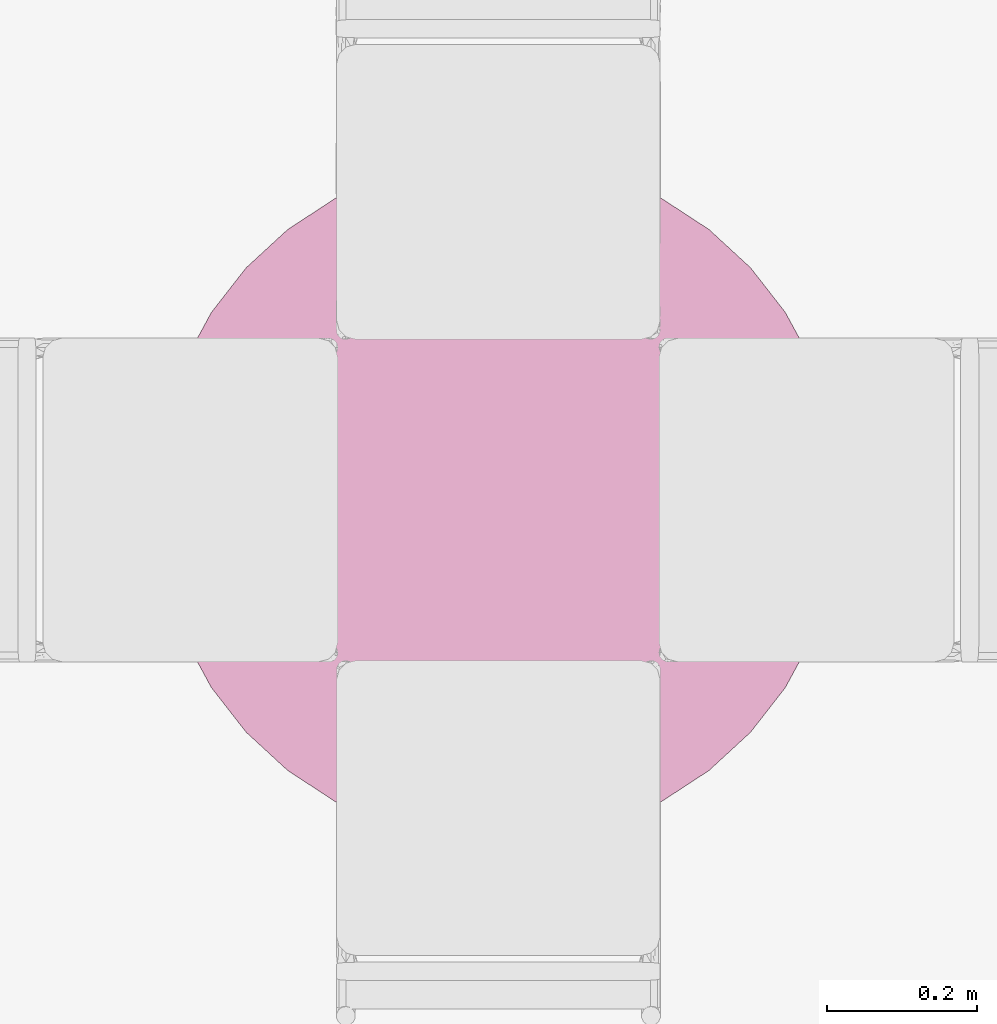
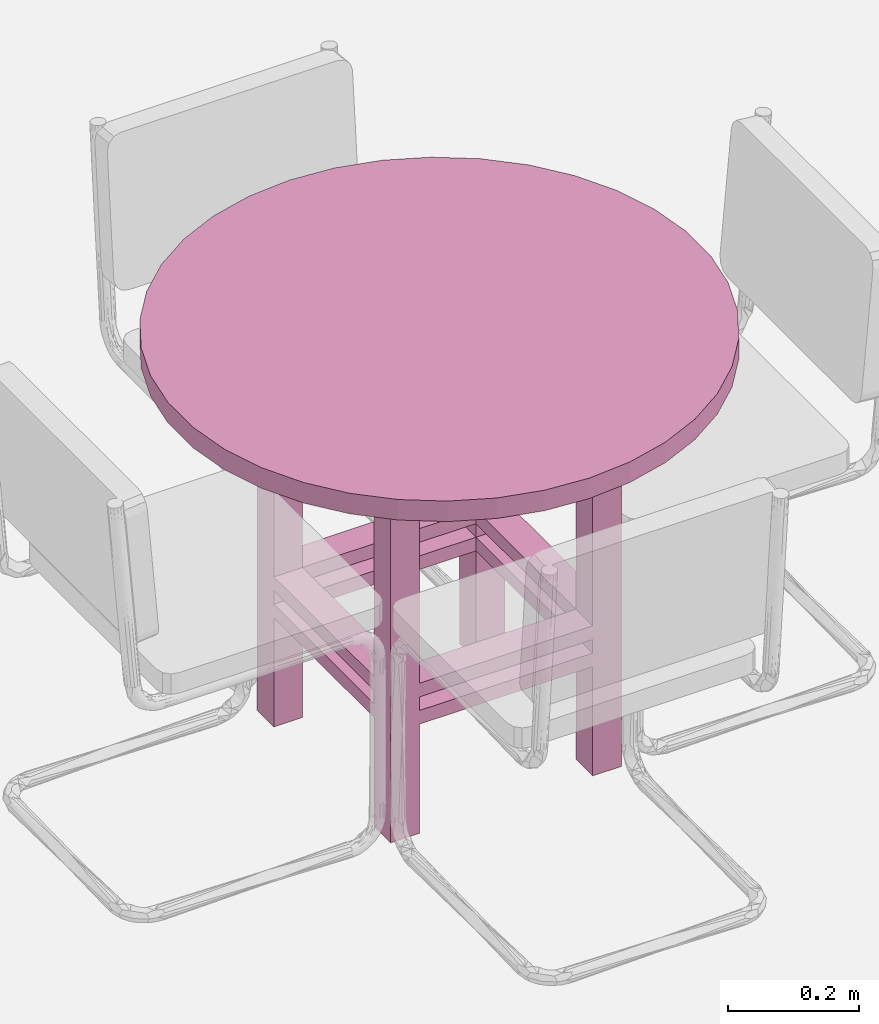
# One storey, part 11 of 11: 1 furnishing.
"""IFC2X3 building model written with IfcOpenShell, lengths in metres."""

import ifcopenshell
import ifcopenshell.guid

model = None  # the IFC model being written
_history = None  # IfcOwnerHistory: only IFC2X3 demands one
_inside = {}  # id of a spatial element -> (the spatial element, [elements in it])
_under = {}  # id of a project, library or spatial element -> (it, [spatial elements below it])
_declared = {}  # id of a project -> (the project, [libraries it declares])
_typed = {}  # id of a type object -> (the type object, [elements of that type])
_made_of = {}  # id of a material, layer set ... -> (it, [elements and type objects made of it])


def new_model(schema):
    """Start an empty IFC model of exactly this schema.

    Asked for "IFC4X3", IfcOpenShell would pick the latest addendum, in which some entities
    have other attributes; the version numbers below select the first issue.
    IFC2X3 requires an IfcOwnerHistory on every rooted entity: one is made here for all.
    """
    global model, _history
    if schema == "IFC4X3":
        model = ifcopenshell.file(schema_version=(4, 3, 0, 0))
    else:
        model = ifcopenshell.file(schema=schema)
    _inside.clear()
    _under.clear()
    _declared.clear()
    _typed.clear()
    _made_of.clear()
    _history = None
    if model.schema == "IFC2X3":
        org = make("IfcOrganization", Name="unknown")
        user = make(
            "IfcPersonAndOrganization",
            ThePerson=make("IfcPerson", FamilyName="unknown"),
            TheOrganization=org,
        )
        app = make(
            "IfcApplication",
            ApplicationDeveloper=org,
            Version="unknown",
            ApplicationFullName="unknown",
            ApplicationIdentifier="unknown",
        )
        _history = make(
            "IfcOwnerHistory",
            OwningUser=user,
            OwningApplication=app,
            ChangeAction="ADDED",
            CreationDate=0,
        )
    return model


def make(cls, **values):
    """One entity of the class cls with the attributes given. An attribute that is None is left unset."""
    return model.create_entity(
        cls, **{name: value for name, value in values.items() if value is not None}
    )


def entity(cls, *values):
    """Any entity or typed value of the class cls, its attributes in the order of the schema. None: left unset."""
    e = model.create_entity(cls)
    for i, value in enumerate(values):
        if value is not None:
            e[i] = value
    return e


def rooted(cls, **values):
    """An entity with a GlobalId (a new one), such as an element, a storey or a relation."""
    return make(cls, GlobalId=ifcopenshell.guid.new(), OwnerHistory=_history, **values)


def si_unit(unit_type, name, prefix=None):
    """IfcSIUnit, for example si_unit("LENGTHUNIT", "METRE", prefix="MILLI")."""
    return make("IfcSIUnit", UnitType=unit_type, Prefix=prefix, Name=name)


def converted_unit(unit_type, name, factor, base, dimensions=None, offset=None):
    """IfcConversionBasedUnit, such as the inch: factor (a typed value) times the base unit."""
    return make(
        "IfcConversionBasedUnit"
        if offset is None
        else "IfcConversionBasedUnitWithOffset",
        ConversionOffset=offset,
        Dimensions=None
        if dimensions is None
        else entity("IfcDimensionalExponents", *dimensions),
        UnitType=unit_type,
        Name=name,
        ConversionFactor=make(
            "IfcMeasureWithUnit", ValueComponent=factor, UnitComponent=base
        ),
    )


def derived_unit(unit_type, elements):
    """IfcDerivedUnit: a product of units, each with its exponent."""
    return make(
        "IfcDerivedUnit",
        Elements=[
            make("IfcDerivedUnitElement", Unit=unit, Exponent=power)
            for unit, power in elements
        ],
        UnitType=unit_type,
    )


def assignment(units):
    """IfcUnitAssignment: the units of a project."""
    return None if units is None else make("IfcUnitAssignment", Units=units)


def point(xyz):
    """IfcCartesianPoint."""
    return None if xyz is None else make("IfcCartesianPoint", Coordinates=xyz)


def direction(xyz):
    """IfcDirection."""
    return None if xyz is None else make("IfcDirection", DirectionRatios=xyz)


def frame(location, z_axis=None, x_axis=None):
    """IfcAxis2Placement3D, a coordinate frame: its origin and axes. An axis left out is left unset."""
    return make(
        "IfcAxis2Placement3D",
        Location=point(location),
        Axis=direction(z_axis),
        RefDirection=direction(x_axis),
    )


def origin():
    """The frame at (0, 0, 0) with its axes left unset."""
    return frame((0.0, 0.0, 0.0))


def place(relative_to, where):
    """IfcLocalPlacement: puts the frame where relative to a parent placement (None: the world)."""
    return make(
        "IfcLocalPlacement", PlacementRelTo=relative_to, RelativePlacement=where
    )


def context(
    kind, dimensions, precision=None, world=None, true_north=None, identifier=None
):
    """IfcGeometricRepresentationContext, for example the 3D "Model" context."""
    return make(
        "IfcGeometricRepresentationContext",
        ContextIdentifier=identifier,
        ContextType=kind,
        CoordinateSpaceDimension=dimensions,
        Precision=precision,
        WorldCoordinateSystem=world,
        TrueNorth=true_north,
    )


def subcontext(parent, identifier, kind, view, scale=None):
    """IfcGeometricRepresentationSubContext, for example "Body" below "Model"."""
    return make(
        "IfcGeometricRepresentationSubContext",
        ContextIdentifier=identifier,
        ContextType=kind,
        ParentContext=parent,
        TargetScale=scale,
        TargetView=view,
    )


def project(units=None, contexts=None):
    """IfcProject with its units and contexts."""
    return rooted(
        "IfcProject",
        Name="project",
        RepresentationContexts=contexts,
        UnitsInContext=assignment(units),
    )


def spatial(cls, under=None, at=None, **own):
    """A site, building, storey or space (cls), placed at a placement, below another one or the project."""
    s = rooted(cls, ObjectPlacement=at, **own)
    if under is not None:
        _under.setdefault(under.id(), (under, []))[1].append(s)
    return s


def faces_of(points, faces, orient=None, outer=None):
    """IfcFace entities. A face is a list of loops; a loop is a list of indices into points, from 0.

    orient and outer hold one flag for each loop. By default every Orientation is true, the
    first loop of a face is its IfcFaceOuterBound and the others are IfcFaceBound.
    """
    made = []
    for i, loops in enumerate(faces):
        bounds = []
        for j, loop in enumerate(loops):
            is_outer = j == 0 if outer is None else outer[i][j]
            bounds.append(
                make(
                    "IfcFaceOuterBound" if is_outer else "IfcFaceBound",
                    Bound=make("IfcPolyLoop", Polygon=[points[k] for k in loop]),
                    Orientation=True if orient is None else orient[i][j],
                )
            )
        made.append(make("IfcFace", Bounds=bounds))
    return made


def faceted_brep(points, faces, orient=None, outer=None, voids=None):
    """IfcFacetedBrep: a solid bounded by flat faces; with voids (closed shells), ...WithVoids."""
    shared = [point(p) for p in points]
    hull = make("IfcClosedShell", CfsFaces=faces_of(shared, faces, orient, outer))
    if voids is None:
        return make("IfcFacetedBrep", Outer=hull)
    return make(
        "IfcFacetedBrepWithVoids",
        Outer=hull,
        Voids=[
            make(cls, CfsFaces=faces_of(shared, fs, o, b)) for cls, fs, o, b in voids
        ],
    )


def shape(context_of_items, identifier, shape_type, items):
    """IfcShapeRepresentation: the items that make up one representation, for example the "Body"."""
    return make(
        "IfcShapeRepresentation",
        ContextOfItems=context_of_items,
        RepresentationIdentifier=identifier,
        RepresentationType=shape_type,
        Items=items,
    )


def source(mapping_origin, context_of_items, identifier, shape_type, items):
    """IfcRepresentationMap: a shape defined once, which mapped items show again and again."""
    return make(
        "IfcRepresentationMap",
        MappingOrigin=mapping_origin,
        MappedRepresentation=shape(context_of_items, identifier, shape_type, items),
    )


def transform(
    local_origin,
    x_axis=None,
    y_axis=None,
    z_axis=None,
    scale=None,
    scale2=None,
    scale3=None,
    uniform=True,
):
    """IfcCartesianTransformationOperator3D, or its non-uniform kind. x_axis, y_axis, z_axis: its Axis1, 2, 3."""
    if uniform:
        return make(
            "IfcCartesianTransformationOperator3D",
            Axis1=direction(x_axis),
            Axis2=direction(y_axis),
            LocalOrigin=point(local_origin),
            Scale=scale,
            Axis3=direction(z_axis),
        )
    return make(
        "IfcCartesianTransformationOperator3DnonUniform",
        Axis1=direction(x_axis),
        Axis2=direction(y_axis),
        LocalOrigin=point(local_origin),
        Scale=scale,
        Axis3=direction(z_axis),
        Scale2=scale2,
        Scale3=scale3,
    )


def mapped(mapping_source, mapping_target):
    """IfcMappedItem: shows the shape of a source again, moved by a transform."""
    return make(
        "IfcMappedItem", MappingSource=mapping_source, MappingTarget=mapping_target
    )


def material(Name=None, Category=None):
    """IfcMaterial."""
    return make("IfcMaterial", Name=Name, Category=Category)


def material_list(materials):
    """IfcMaterialList."""
    return make("IfcMaterialList", Materials=materials)


def made_of(thing, what):
    """Note that an element or type object is made of a material, layer set ...; save() writes the relation."""
    if what is not None:
        _made_of.setdefault(what.id(), (what, []))[1].append(thing)
    return thing


def type_object(cls, material=None, **own):
    """A type object (cls), such as IfcWallType, which elements share."""
    return made_of(rooted(cls, **own), material)


def type_shapes(of_type, sources):
    """Give a type object the sources (RepresentationMaps) that its elements show as mapped items."""
    of_type.RepresentationMaps = sources


def element(
    cls,
    number,
    at=None,
    inside=None,
    cuts=None,
    type_object=None,
    material=None,
    context=None,
    identifier="Body",
    shape_type=None,
    held_by="IfcProductDefinitionShape",
    body=None,
    shapes=None,
    **own,
):
    """One element of the class cls, such as IfcWall. Its Tag is "e" and its number.

    at: its placement. inside: the storey or other place that contains it. cuts: it is an
    opening in that element (IfcRelVoidsElement). A single representation is given by context,
    identifier, shape_type and body (its items); several are given by shapes. held_by: the class
    of the entity that holds the representations. save() writes the other relations.
    """
    e = rooted(cls, Tag="e%d" % number, ObjectPlacement=at, **own)
    if body is not None:
        shapes = [shape(context, identifier, shape_type, body)]
    if shapes is not None:
        e.Representation = make(held_by, Representations=shapes)
    if inside is not None:
        _inside.setdefault(inside.id(), (inside, []))[1].append(e)
    if cuts is not None:
        rooted(
            "IfcRelVoidsElement", RelatingBuildingElement=cuts, RelatedOpeningElement=e
        )
    if type_object is not None:
        _typed.setdefault(type_object.id(), (type_object, []))[1].append(e)
    return made_of(e, material)


def aggregate(whole, parts):
    """IfcRelAggregates: a whole, such as a stair, and the parts it consists of."""
    return rooted("IfcRelAggregates", RelatingObject=whole, RelatedObjects=parts)


def save(model, path):
    """Write the relations noted so far, then the file.

    IfcRelAggregates (storeys below a building ...), IfcRelContainedInSpatialStructure (elements
    in a storey), IfcRelDefinesByType, IfcRelAssociatesMaterial and IfcRelDeclares: one each for
    every whole, place, type object, material and project.
    """
    for whole, parts in _under.values():
        aggregate(whole, parts)
    for where, things in _inside.values():
        rooted(
            "IfcRelContainedInSpatialStructure",
            RelatedElements=things,
            RelatingStructure=where,
        )
    for kind, things in _typed.values():
        rooted("IfcRelDefinesByType", RelatedObjects=things, RelatingType=kind)
    for what, things in _made_of.values():
        rooted("IfcRelAssociatesMaterial", RelatedObjects=things, RelatingMaterial=what)
    for by, libraries in _declared.values():
        rooted("IfcRelDeclares", RelatingContext=by, RelatedDefinitions=libraries)
    model.write(path)


model = new_model("IFC2X3")

# Units and contexts
model_context = context("Model", 3, precision=1e-05, world=origin(), true_north=direction((6.12303176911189e-17, 1.0)))
body_context = subcontext(model_context, "Body", "Model", "MODEL_VIEW")
ifc_project = project(units=[si_unit("LENGTHUNIT", "METRE"), si_unit("AREAUNIT", "SQUARE_METRE"), si_unit("VOLUMEUNIT", "CUBIC_METRE"), converted_unit("PLANEANGLEUNIT", "DEGREE", entity("IfcRatioMeasure", 0.0174532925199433), si_unit("PLANEANGLEUNIT", "RADIAN"), dimensions=[0, 0, 0, 0, 0, 0, 0]), si_unit("MASSUNIT", "GRAM", prefix="KILO"), derived_unit("MASSDENSITYUNIT", [(si_unit("MASSUNIT", "GRAM", prefix="KILO"), 1), (si_unit("LENGTHUNIT", "METRE"), -3)]), derived_unit("MOMENTOFINERTIAUNIT", [(si_unit("LENGTHUNIT", "METRE"), 4)]), si_unit("TIMEUNIT", "SECOND"), si_unit("FREQUENCYUNIT", "HERTZ"), si_unit("THERMODYNAMICTEMPERATUREUNIT", "DEGREE_CELSIUS"), derived_unit("THERMALTRANSMITTANCEUNIT", [(si_unit("MASSUNIT", "GRAM", prefix="KILO"), 1), (si_unit("THERMODYNAMICTEMPERATUREUNIT", "KELVIN"), -1), (si_unit("TIMEUNIT", "SECOND"), -3)]), derived_unit("VOLUMETRICFLOWRATEUNIT", [(si_unit("LENGTHUNIT", "METRE"), 3), (si_unit("TIMEUNIT", "SECOND"), -1)]), si_unit("ELECTRICCURRENTUNIT", "AMPERE"), si_unit("ELECTRICVOLTAGEUNIT", "VOLT"), si_unit("POWERUNIT", "WATT"), si_unit("FORCEUNIT", "NEWTON", prefix="KILO"), si_unit("ILLUMINANCEUNIT", "LUX"), si_unit("LUMINOUSFLUXUNIT", "LUMEN"), si_unit("LUMINOUSINTENSITYUNIT", "CANDELA"), derived_unit("USERDEFINED", [(si_unit("MASSUNIT", "GRAM", prefix="KILO"), -1), (si_unit("LENGTHUNIT", "METRE"), -2), (si_unit("TIMEUNIT", "SECOND"), 3), (si_unit("LUMINOUSFLUXUNIT", "LUMEN"), 1)]), derived_unit("LINEARVELOCITYUNIT", [(si_unit("LENGTHUNIT", "METRE"), 1), (si_unit("TIMEUNIT", "SECOND"), -1)]), si_unit("PRESSUREUNIT", "PASCAL"), derived_unit("USERDEFINED", [(si_unit("LENGTHUNIT", "METRE"), -2), (si_unit("MASSUNIT", "GRAM", prefix="KILO"), 1), (si_unit("TIMEUNIT", "SECOND"), -2)]), derived_unit("LINEARFORCEUNIT", [(si_unit("MASSUNIT", "GRAM", prefix="KILO"), 1), (si_unit("LENGTHUNIT", "METRE"), 1), (si_unit("TIMEUNIT", "SECOND"), -2), (si_unit("LENGTHUNIT", "METRE"), -1)]), derived_unit("PLANARFORCEUNIT", [(si_unit("MASSUNIT", "GRAM", prefix="KILO"), 1), (si_unit("LENGTHUNIT", "METRE"), 1), (si_unit("TIMEUNIT", "SECOND"), -2), (si_unit("LENGTHUNIT", "METRE"), -2)])], contexts=[model_context])

# Site, building, storey
site_placement = place(None, origin())
site = spatial("IfcSite", under=ifc_project, at=site_placement, Name="Default", CompositionType="ELEMENT")
building_placement = place(site_placement, origin())
building = spatial("IfcBuilding", under=site, at=building_placement, CompositionType="ELEMENT")
storey_placement = place(building_placement, origin())
storey = spatial("IfcBuildingStorey", under=building, at=storey_placement, Name="Nivel 1", CompositionType="ELEMENT", Elevation=0.0)

# Furnishing
ifc_material_1 = material(Name="Pine")
ifc_material_2 = material(Name="Laminate, Linen, Matte")
ifc_material_list_1 = material_list([ifc_material_1, ifc_material_2])
ifc_material_list_2 = material_list([ifc_material_2, ifc_material_1])
furniture_type = type_object("IfcFurnitureType", Name="M_Table-Dining Round w Chairs:0915mm Diameter", material=ifc_material_list_2)
shared_shape = source(origin(), body_context, "Body", "Brep", [
    faceted_brep([(0.256231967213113, 0.0184713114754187, 0.6477), (0.256231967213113, -0.0323286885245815, 0.6477), (0.307031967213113, -0.0323286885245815, 0.6477), (0.307031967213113, 0.0184713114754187, 0.6477), (-0.0488680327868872, 0.0184713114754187, 0.0), (-0.0488680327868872, -0.0323286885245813, 0.0), (-0.0996680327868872, -0.0323286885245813, 0.0), (-0.0996680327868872, 0.0184713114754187, 0.0), (-0.0996680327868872, 0.0184713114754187, 0.6477), (-0.0488680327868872, 0.0184713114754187, 0.6477), (-0.0488680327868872, 0.0184713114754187, 0.2794), (0.256231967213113, 0.0184713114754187, 0.2794), (0.307031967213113, 0.0184713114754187, 0.0), (0.256231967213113, 0.0184713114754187, 0.0), (0.256231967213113, 0.0184713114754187, 0.2032), (-0.0488680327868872, 0.0184713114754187, 0.2032), (0.256231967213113, 0.0184713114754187, 0.2286), (0.256231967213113, 0.0184713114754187, 0.254), (-0.0488680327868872, 0.0184713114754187, 0.254), (-0.0488680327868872, 0.0184713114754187, 0.2286), (-0.0996680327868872, -0.0323286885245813, 0.6477), (-0.0996680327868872, -0.0323286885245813, 0.2032), (-0.0996680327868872, -0.337428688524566, 0.2032), (-0.0996680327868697, -0.337428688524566, 0.0), (-0.0996680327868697, -0.388228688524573, 0.0), (-0.0996680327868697, -0.388228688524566, 0.6477), (-0.0996680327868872, -0.337428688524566, 0.6477), (-0.0996680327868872, -0.337428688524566, 0.2794), (-0.0996680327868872, -0.0323286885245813, 0.2794), (-0.0996680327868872, -0.0323286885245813, 0.2286), (-0.0996680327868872, -0.0323286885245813, 0.254), (-0.0996680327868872, -0.337428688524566, 0.254), (-0.0996680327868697, -0.337428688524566, 0.2286), (-0.0488680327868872, -0.0323286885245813, 0.6477), (-0.0488680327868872, -0.0323286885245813, 0.2794), (0.256231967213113, -0.0323286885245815, 0.2794), (0.307031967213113, -0.0323286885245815, 0.2794), (0.307031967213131, -0.337428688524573, 0.2794), (0.307031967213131, -0.337428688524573, 0.6477), (0.307031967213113, -0.388228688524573, 0.6477), (0.307031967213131, -0.388228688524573, 0.0), (0.307031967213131, -0.337428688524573, 0.0), (0.307031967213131, -0.337428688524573, 0.2032), (0.307031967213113, -0.0323286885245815, 0.2032), (0.307031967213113, -0.0323286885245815, 0.0), (0.307031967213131, -0.337428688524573, 0.2286), (0.307031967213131, -0.337428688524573, 0.254), (0.307031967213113, -0.0323286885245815, 0.254), (0.307031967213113, -0.0323286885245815, 0.2286), (0.256231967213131, -0.388228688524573, 0.6477), (0.256231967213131, -0.388228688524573, 0.2794), (-0.0488680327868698, -0.388228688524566, 0.2794), (-0.0488680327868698, -0.388228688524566, 0.6477), (-0.0488680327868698, -0.388228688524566, 0.0), (-0.0488680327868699, -0.388228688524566, 0.2032), (0.256231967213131, -0.388228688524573, 0.2032), (0.256231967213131, -0.388228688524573, 0.0), (-0.0488680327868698, -0.388228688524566, 0.2286), (-0.0488680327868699, -0.388228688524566, 0.254), (0.256231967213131, -0.388228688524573, 0.254), (0.256231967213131, -0.388228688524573, 0.2286), (0.256231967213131, -0.337428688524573, 0.6477), (0.256231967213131, -0.337428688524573, 0.2794), (-0.0488680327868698, -0.337428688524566, 0.6477), (-0.0488680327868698, -0.337428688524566, 0.2794), (0.256231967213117, -0.0323286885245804, 0.2286), (0.256231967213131, -0.337428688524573, 0.2286), (-0.0488680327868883, -0.0323286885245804, 0.2032), (-0.0488680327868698, -0.337428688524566, 0.2032), (0.256231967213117, -0.0323286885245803, 0.2032), (0.256231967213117, -0.337428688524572, 0.2032), (-0.0488680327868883, -0.337428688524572, 0.2286), (-0.0488680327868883, -0.0323286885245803, 0.2286), (-0.0488680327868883, -0.0323286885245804, 0.254), (-0.0488680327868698, -0.337428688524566, 0.254), (0.256231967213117, -0.0323286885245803, 0.254), (0.256231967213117, -0.337428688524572, 0.254), (-0.0488680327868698, -0.337428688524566, 0.0), (0.256231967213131, -0.337428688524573, 0.0), (0.256231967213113, -0.0323286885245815, 0.0)], [[[0, 1, 2, 3]], [[4, 5, 6, 7]], [[8, 9, 10, 11, 0, 3, 12, 13, 14, 15, 4, 7], [16, 17, 18, 19]], [[20, 8, 7, 6, 21, 22, 23, 24, 25, 26, 27, 28], [29, 30, 31, 32]], [[33, 20, 28, 34]], [[9, 33, 34, 10]], [[1, 0, 11, 35]], [[2, 1, 35, 36]], [[12, 3, 2, 36, 37, 38, 39, 40, 41, 42, 43, 44], [45, 46, 47, 48]], [[40, 39, 49, 50, 51, 52, 25, 24, 53, 54, 55, 56], [57, 58, 59, 60]], [[61, 38, 37, 62]], [[49, 61, 62, 50]], [[63, 52, 51, 64]], [[26, 63, 64, 27]], [[65, 66, 45, 48]], [[67, 68, 22, 21]], [[66, 65, 69, 70]], [[71, 66, 70, 68]], [[72, 71, 68, 67]], [[65, 72, 67, 69]], [[35, 62, 37, 36]], [[73, 74, 31, 30]], [[62, 35, 75, 76]], [[64, 62, 76, 74]], [[34, 64, 74, 73]], [[35, 34, 73, 75]], [[74, 76, 59, 58]], [[75, 73, 18, 17]], [[76, 75, 47, 46]], [[62, 64, 51, 50]], [[64, 34, 28, 27]], [[34, 35, 11, 10]], [[68, 70, 55, 54]], [[69, 67, 15, 14]], [[70, 69, 43, 42]], [[66, 71, 57, 60]], [[71, 72, 29, 32]], [[72, 65, 16, 19]], [[71, 32, 31, 74]], [[77, 23, 22, 68]], [[57, 71, 74, 58]], [[53, 77, 68, 54]], [[66, 60, 59, 76]], [[78, 56, 55, 70]], [[45, 66, 76, 46]], [[41, 78, 70, 42]], [[65, 48, 47, 75]], [[79, 44, 43, 69]], [[16, 65, 75, 17]], [[13, 79, 69, 14]], [[72, 19, 18, 73]], [[5, 4, 15, 67]], [[29, 72, 73, 30]], [[6, 5, 67, 21]], [[53, 24, 23, 77]], [[13, 12, 44, 79]], [[56, 78, 41, 40]], [[49, 39, 38, 61]], [[52, 63, 26, 25]], [[9, 8, 20, 33]]]),
    faceted_brep([(0.332431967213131, 0.0438713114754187, 0.7239), (-0.125068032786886, 0.0438713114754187, 0.7239), (-0.125068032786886, -0.413628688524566, 0.7239), (0.332431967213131, -0.413628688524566, 0.7239), (0.307031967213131, 0.0184713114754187, 0.7239), (0.307031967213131, -0.388228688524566, 0.7239), (-0.0996680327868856, -0.388228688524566, 0.7239), (-0.0996680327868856, 0.0184713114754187, 0.7239), (0.332431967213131, 0.0438713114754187, 0.6477), (0.332431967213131, -0.413628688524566, 0.6477), (-0.125068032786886, -0.413628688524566, 0.6477), (-0.125068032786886, 0.0438713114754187, 0.6477), (0.307031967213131, 0.0184713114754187, 0.6477), (-0.0996680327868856, 0.0184713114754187, 0.6477), (-0.0996680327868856, -0.388228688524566, 0.6477), (0.307031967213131, -0.388228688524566, 0.6477)], [[[0, 1, 2, 3], [4, 5, 6, 7]], [[8, 9, 10, 11], [12, 13, 14, 15]], [[1, 0, 8, 11]], [[2, 1, 11, 10]], [[3, 2, 10, 9]], [[0, 3, 9, 8]], [[5, 4, 12, 15]], [[6, 5, 15, 14]], [[7, 6, 14, 13]], [[4, 7, 13, 12]]]),
    faceted_brep([(-0.27932169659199, -0.435107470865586, 0.723900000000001), (-0.315284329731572, -0.36865434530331, 0.723900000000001), (-0.339818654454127, -0.297188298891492, 0.723900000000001), (-0.352255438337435, -0.222658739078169, 0.723900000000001), (-0.352255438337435, -0.147098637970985, 0.723900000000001), (-0.339818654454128, -0.0725690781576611, 0.723900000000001), (-0.315284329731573, -0.00110303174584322, 0.723900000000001), (-0.279321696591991, 0.0653500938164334, 0.723900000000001), (-0.232911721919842, 0.1249776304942, 0.7239), (-0.177320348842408, 0.176153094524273, 0.7239), (-0.114063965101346, 0.217480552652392, 0.7239), (-0.0448680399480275, 0.247832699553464, 0.7239), (0.0283799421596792, 0.266381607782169, 0.7239), (0.103681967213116, 0.272621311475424, 0.723899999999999), (0.178983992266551, 0.266381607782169, 0.723899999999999), (0.252231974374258, 0.247832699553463, 0.723899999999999), (0.321427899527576, 0.217480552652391, 0.723899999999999), (0.384684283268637, 0.176153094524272, 0.723899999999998), (0.440275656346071, 0.124977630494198, 0.723899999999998), (0.48668563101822, 0.0653500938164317, 0.723899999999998), (0.522648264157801, -0.00110303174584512, 0.723899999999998), (0.547182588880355, -0.072569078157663, 0.723899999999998), (0.559619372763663, -0.147098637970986, 0.723899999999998), (0.559619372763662, -0.22265873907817, 0.723899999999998), (0.547182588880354, -0.297188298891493, 0.723899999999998), (0.522648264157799, -0.368654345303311, 0.723899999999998), (0.486685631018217, -0.435107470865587, 0.723899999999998), (0.440275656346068, -0.494735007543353, 0.723899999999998), (0.384684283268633, -0.545910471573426, 0.723899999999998), (0.321427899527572, -0.587237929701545, 0.723899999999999), (0.252231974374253, -0.617590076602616, 0.723899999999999), (0.178983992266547, -0.636138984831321, 0.723899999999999), (0.103681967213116, -0.642378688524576, 0.723899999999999), (0.0283799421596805, -0.636138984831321, 0.7239), (-0.0448680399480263, -0.617590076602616, 0.7239), (-0.114063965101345, -0.587237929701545, 0.7239), (-0.177320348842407, -0.545910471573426, 0.7239), (-0.232911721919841, -0.494735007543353, 0.7239), (-0.315284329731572, -0.36865434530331, 0.762000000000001), (-0.27932169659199, -0.435107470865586, 0.762000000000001), (-0.232911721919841, -0.494735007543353, 0.762), (-0.177320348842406, -0.545910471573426, 0.762), (-0.114063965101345, -0.587237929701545, 0.762), (-0.0448680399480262, -0.617590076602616, 0.762), (0.0283799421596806, -0.636138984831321, 0.762), (0.103681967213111, -0.642378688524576, 0.761999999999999), (0.178983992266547, -0.636138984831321, 0.761999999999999), (0.252231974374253, -0.617590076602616, 0.761999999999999), (0.321427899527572, -0.587237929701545, 0.761999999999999), (0.384684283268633, -0.545910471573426, 0.761999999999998), (0.440275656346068, -0.494735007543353, 0.761999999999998), (0.486685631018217, -0.435107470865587, 0.761999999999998), (0.522648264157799, -0.368654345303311, 0.761999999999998), (0.547182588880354, -0.297188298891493, 0.761999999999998), (0.559619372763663, -0.22265873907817, 0.761999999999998), (0.559619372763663, -0.147098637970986, 0.761999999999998), (0.547182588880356, -0.072569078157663, 0.761999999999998), (0.522648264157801, -0.00110303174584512, 0.761999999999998), (0.48668563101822, 0.0653500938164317, 0.761999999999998), (0.440275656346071, 0.124977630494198, 0.761999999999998), (0.384684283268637, 0.176153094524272, 0.761999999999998), (0.321427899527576, 0.217480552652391, 0.761999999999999), (0.252231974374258, 0.247832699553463, 0.761999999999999), (0.178983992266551, 0.266381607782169, 0.761999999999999), (0.103681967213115, 0.272621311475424, 0.761999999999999), (0.0283799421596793, 0.266381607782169, 0.762), (-0.0448680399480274, 0.247832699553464, 0.762), (-0.114063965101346, 0.217480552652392, 0.762), (-0.177320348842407, 0.176153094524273, 0.762), (-0.232911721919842, 0.1249776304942, 0.762), (-0.279321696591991, 0.0653500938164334, 0.762000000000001), (-0.315284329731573, -0.00110303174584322, 0.762000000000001), (-0.339818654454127, -0.0725690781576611, 0.762000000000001), (-0.352255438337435, -0.147098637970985, 0.762000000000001), (-0.352255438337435, -0.222658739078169, 0.762000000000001), (-0.339818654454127, -0.297188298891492, 0.762000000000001)], [[[0, 1, 2, 3, 4, 5, 6, 7, 8, 9, 10, 11, 12, 13, 14, 15, 16, 17, 18, 19, 20, 21, 22, 23, 24, 25, 26, 27, 28, 29, 30, 31, 32, 33, 34, 35, 36, 37]], [[38, 39, 40, 41, 42, 43, 44, 45, 46, 47, 48, 49, 50, 51, 52, 53, 54, 55, 56, 57, 58, 59, 60, 61, 62, 63, 64, 65, 66, 67, 68, 69, 70, 71, 72, 73, 74, 75]], [[44, 33, 32, 45]], [[42, 35, 34, 43]], [[34, 33, 44, 43]], [[36, 35, 42, 41]], [[0, 37, 40, 39]], [[75, 74, 3, 2]], [[39, 38, 1, 0]], [[41, 40, 37, 36]], [[1, 38, 75, 2]], [[74, 73, 4, 3]], [[6, 71, 70, 7]], [[4, 73, 72, 5]], [[71, 6, 5, 72]], [[7, 70, 69, 8]], [[66, 65, 12, 11]], [[9, 68, 67, 10]], [[10, 67, 66, 11]], [[69, 68, 9, 8]], [[12, 65, 64, 13]], [[14, 13, 64, 63]], [[16, 15, 62, 61]], [[63, 62, 15, 14]], [[61, 60, 17, 16]], [[57, 56, 21, 20]], [[18, 59, 58, 19]], [[19, 58, 57, 20]], [[59, 18, 17, 60]], [[21, 56, 55, 22]], [[55, 54, 23, 22]], [[25, 52, 51, 26]], [[23, 54, 53, 24]], [[52, 25, 24, 53]], [[26, 51, 50, 27]], [[47, 46, 31, 30]], [[28, 49, 48, 29]], [[29, 48, 47, 30]], [[50, 49, 28, 27]], [[31, 46, 45, 32]]]),
])
type_shapes(furniture_type, [shared_shape])
furnishing_placement = place(storey_placement, frame((0.2706388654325, 2.85010423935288, 0.0), z_axis=(0.0, 0.0, 1.0), x_axis=(-1.0, 0.0, 0.0)))
element("IfcFurnishingElement", 1, at=furnishing_placement, inside=storey, type_object=furniture_type, material=ifc_material_list_1, Name="M_Table-Dining Round w Chairs:0915mm Diameter", ObjectType="M_Table-Dining Round w Chairs:0915mm Diameter", context=body_context, shape_type="MappedRepresentation", body=[
    mapped(shared_shape, transform((0.0, 0.0, 0.0), scale=1.0)),
])

save(model, "model.ifc")
